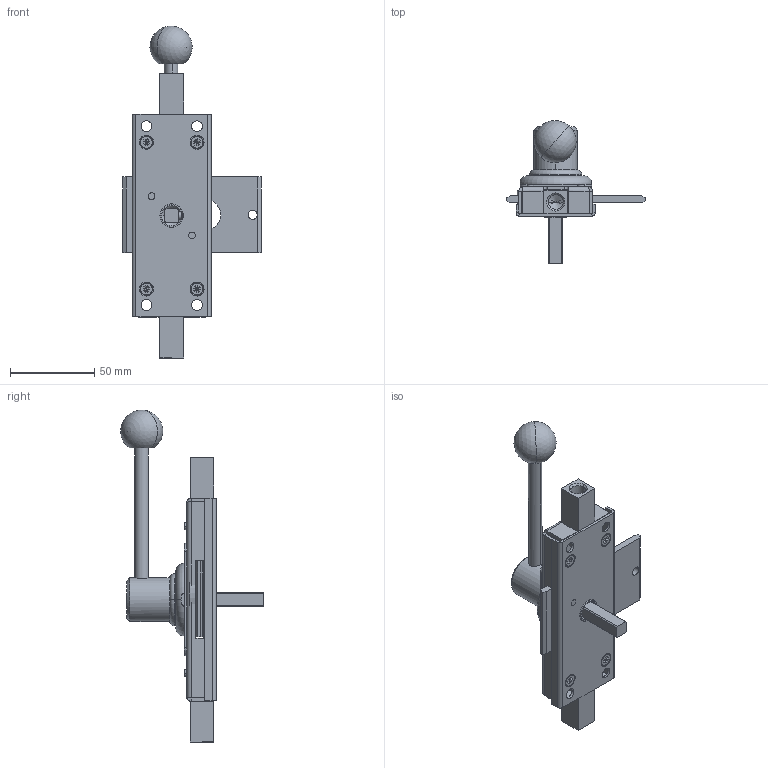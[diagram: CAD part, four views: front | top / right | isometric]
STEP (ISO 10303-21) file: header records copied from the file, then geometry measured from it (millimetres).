
FILE_DESCRIPTION (( 'STEP AP214' ), '1' );
FILE_NAME ('1B.ZWPM8.L - zamek wewnetrzny panik ZWP lewy.STEP', '2016-09-07T09:50:36', ( '' ), ( '' ), 'SwSTEP 2.0', 'SolidWorks 2015', '' );
FILE_SCHEMA (( 'AUTOMOTIVE_DESIGN' ));
Length unit declared in the file: millimetre
Products named in the file (26): 1B.ZW.006_A; 1B.ZW.005_A.P; 1B.ZW.005.04_A; 1B.ZW.005.03_A - M10; 1B.ZW.004_A; 1B.ZW.005.02_A; M4_M4 x 8; 1B.ZW.005.01_A; 1B.ZW.012_A.35; 1B.ZW.003_A; 1B.ZW.013_A; 1B.ZW.001_A; 1B.ZW.014_K.02; 1B.ZW.002_B; 1B.ZW.015_A; 1B.ZW.016_A; 1B.ZWPM8.L - zamek wewnetrzny panik ZWP lewy; 1B.ZW.020_A; 1B.ZW.011.02_K.01; 1B.ZW.011_A; 1B.ZW.011.03_A; 1B.ZW.011.01_A; 1B.ZW.010_A; 1B.ZW.009_A; 1B.ZW.008_A; 1B.ZW.007_A
Assembly tree (36 placements, depth 3):
  1B.ZWPM8.L - zamek wewnetrzny panik ZWP lewy
    1B.ZW.002_B
    1B.ZW.001_A
    1B.ZW.003_A  x4
    1B.ZW.005_A.P  x2
      1B.ZW.005.01_A
      1B.ZW.005.02_A
      1B.ZW.005.03_A - M10
      1B.ZW.005.04_A
    1B.ZW.006_A
    1B.ZW.007_A
    1B.ZW.008_A
    1B.ZW.009_A
    1B.ZW.010_A
    1B.ZW.011_A
      1B.ZW.011.01_A
      1B.ZW.011.03_A
    1B.ZW.011.02_K.01
    1B.ZW.020_A
    1B.ZW.016_A
    1B.ZW.015_A
    1B.ZW.014_K.02
    1B.ZW.013_A
    1B.ZW.012_A.35
    M4_M4 x 8  x8
    1B.ZW.004_A
Bounding box: 82 x 84.58 x 196.84 mm (x, y, z)
Volume: 101703.1 mm3; surface area: 84474.7 mm2
Topology: 39 solids, 39 shells, 955 faces, 2246 edges, 1380 vertices
Faces by surface type: plane 424, cylinder 291, cone 188, torus 36, bspline 14, sphere 2
Entity records: 23096 total; most frequent: CARTESIAN_POINT 7310, DIRECTION 3215, ORIENTED_EDGE 2882, EDGE_CURVE 1441, AXIS2_PLACEMENT_3D 1242, VERTEX_POINT 898, VECTOR 731, LINE 731
